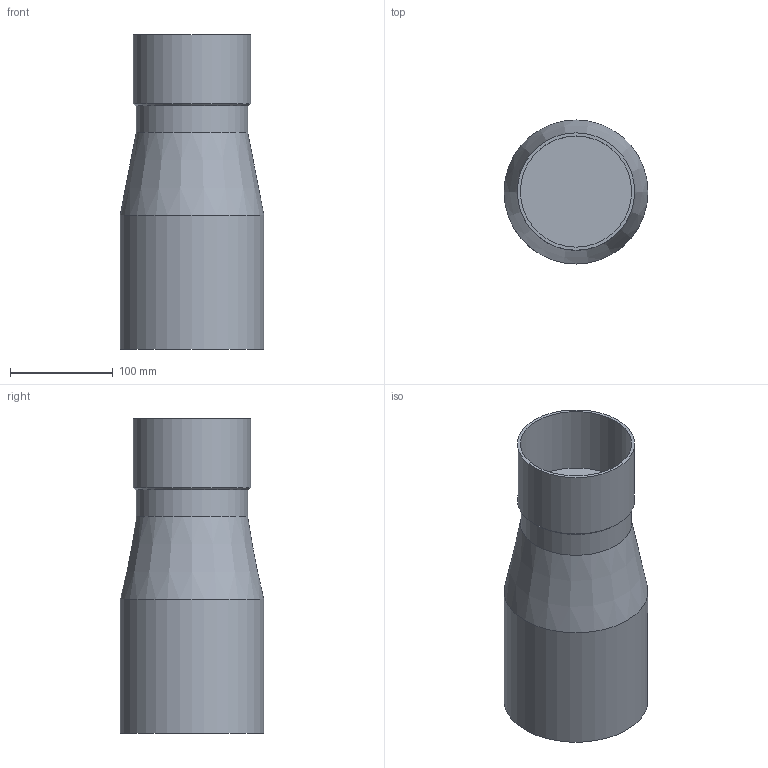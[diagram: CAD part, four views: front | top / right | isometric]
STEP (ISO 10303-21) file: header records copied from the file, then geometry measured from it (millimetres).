
FILE_DESCRIPTION( ( 'Unknown' ), '1' );
FILE_NAME( '//Server/ofimatica/alfredo/Alfredo2/ISOTUBI/PZAS3D/FICHATECNICA/NUMEPRESS/generico 3D/F14DN108-139,7.stp', 'Unknown', ( 'Unknown' ), ( 'Unknown' ), 'PSStep 14.0', 'Unknown', ' ' );
FILE_SCHEMA( ( 'AUTOMOTIVE_DESIGN { 1 0 10303 214 1 1 1 1 }' ) );
Length unit declared in the file: millimetre
Products named in the file (1): 1
Bounding box: 139.7 x 139.7 x 305.5 mm (x, y, z)
Volume: 3297115.2 mm3; surface area: 171419.6 mm2
Topology: 1 solids, 1 shells, 10 faces, 15 edges, 9 vertices
Faces by surface type: plane 4, cylinder 4, cone 2
Full cylindrical faces by diameter (mm): 108 x2, 114 x1, 139.7 x1
Entity records: 290 total; most frequent: DIRECTION 40, CARTESIAN_POINT 29, AXIS2_PLACEMENT_3D 20, EDGE_LOOP 18, ORIENTED_EDGE 18, FACE_OUTER_BOUND 14, STYLED_ITEM 10, PRESENTATION_STYLE_ASSIGNMENT 10
